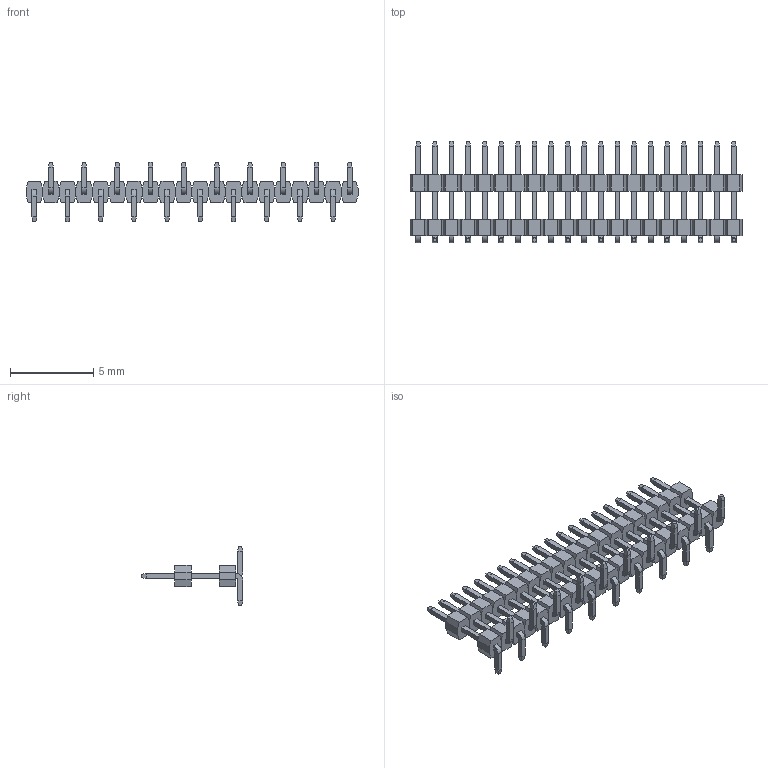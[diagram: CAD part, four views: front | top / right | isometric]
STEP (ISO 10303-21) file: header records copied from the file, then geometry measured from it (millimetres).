
FILE_DESCRIPTION (( 'STEP AP203' ), '1' );
FILE_NAME ('PZ100-1-20-S-C3.7-XX-DP-2(L6.1) (1.00 等齬 齬渀 邧呿 泂え-HCTL).STEP', '2026-03-11T06:28:04', ( '' ), ( '' ), 'SwSTEP 2.0', 'SolidWorks 2025', '' );
FILE_SCHEMA (( 'CONFIG_CONTROL_DESIGN' ));
Length unit declared in the file: millimetre
Products named in the file (1): PZ100-1-20-S-C3.7-XX-DP-2(L6.1) (1.00 单排 排针 双塑 贴片-HCTL)
Bounding box: 20 x 6.1 x 3.6 mm (x, y, z)
Volume: 57.5 mm3; surface area: 389 mm2
Topology: 20 solids, 20 shells, 880 faces, 2120 edges, 1360 vertices
Faces by surface type: plane 840, cylinder 40
Entity records: 24963 total; most frequent: CARTESIAN_POINT 4361, ORIENTED_EDGE 4240, DIRECTION 3962, EDGE_CURVE 2120, LINE 2040, VECTOR 2040, VERTEX_POINT 1360, AXIS2_PLACEMENT_3D 961
